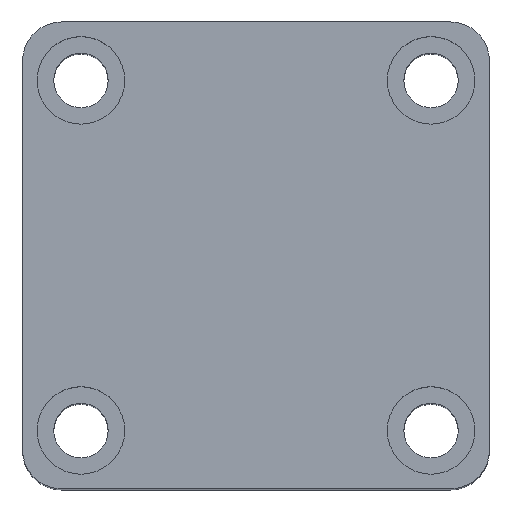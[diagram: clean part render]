
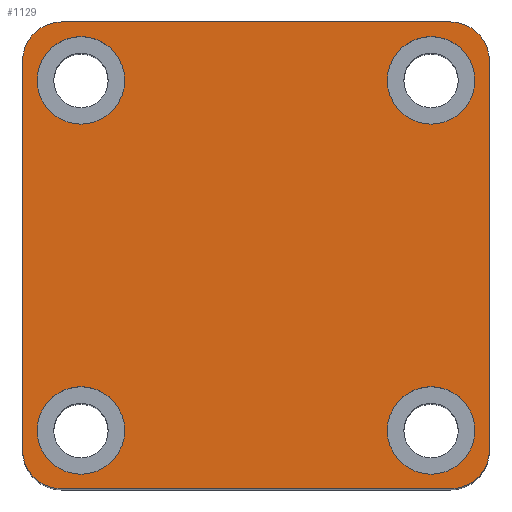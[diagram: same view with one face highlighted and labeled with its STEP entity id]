
A CAD part, top view. The second image highlights one B-rep face of the part: STEP entity #1129.
In plain terms, the highlighted planar face has unit normal (0, 0, 1).
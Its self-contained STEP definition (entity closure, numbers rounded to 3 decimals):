
#12 = CIRCLE ( 'NONE', #1632, 4.5 ) ;
#14 = CIRCLE ( 'NONE', #1633, 4. ) ;
#18 = CIRCLE ( 'NONE', #1634, 4.5 ) ;
#20 = CIRCLE ( 'NONE', #1635, 4.5 ) ;
#21 = CIRCLE ( 'NONE', #1636, 4.5 ) ;
#25 = CIRCLE ( 'NONE', #1639, 4. ) ;
#28 = CIRCLE ( 'NONE', #1642, 4. ) ;
#45 = FACE_BOUND ( 'NONE', #714, .T. ) ;
#46 = FACE_BOUND ( 'NONE', #700, .T. ) ;
#47 = FACE_OUTER_BOUND ( 'NONE', #702, .T. ) ;
#48 = FACE_BOUND ( 'NONE', #704, .T. ) ;
#49 = FACE_BOUND ( 'NONE', #705, .T. ) ;
#482 = VERTEX_POINT ( 'NONE', #1555 ) ;
#516 = ORIENTED_EDGE ( 'NONE', *, *, #1753, .F. ) ;
#518 = ORIENTED_EDGE ( 'NONE', *, *, #1719, .F. ) ;
#519 = ORIENTED_EDGE ( 'NONE', *, *, #1762, .F. ) ;
#520 = ORIENTED_EDGE ( 'NONE', *, *, #1714, .F. ) ;
#521 = ORIENTED_EDGE ( 'NONE', *, *, #1710, .F. ) ;
#523 = ORIENTED_EDGE ( 'NONE', *, *, #1761, .F. ) ;
#525 = ORIENTED_EDGE ( 'NONE', *, *, #1728, .F. ) ;
#526 = ORIENTED_EDGE ( 'NONE', *, *, #1780, .F. ) ;
#527 = ORIENTED_EDGE ( 'NONE', *, *, #1806, .T. ) ;
#528 = ORIENTED_EDGE ( 'NONE', *, *, #1722, .T. ) ;
#529 = ORIENTED_EDGE ( 'NONE', *, *, #1809, .T. ) ;
#530 = ORIENTED_EDGE ( 'NONE', *, *, #1660, .T. ) ;
#531 = ORIENTED_EDGE ( 'NONE', *, *, #1815, .T. ) ;
#532 = ORIENTED_EDGE ( 'NONE', *, *, #1602, .T. ) ;
#533 = ORIENTED_EDGE ( 'NONE', *, *, #1795, .T. ) ;
#535 = ORIENTED_EDGE ( 'NONE', *, *, #1747, .T. ) ;
#552 = VERTEX_POINT ( 'NONE', #1551 ) ;
#700 = EDGE_LOOP ( 'NONE', ( #525, #526 ) ) ;
#702 = EDGE_LOOP ( 'NONE', ( #527, #528, #529, #530, #531, #532, #533, #535 ) ) ;
#704 = EDGE_LOOP ( 'NONE', ( #521, #523 ) ) ;
#705 = EDGE_LOOP ( 'NONE', ( #516, #518 ) ) ;
#714 = EDGE_LOOP ( 'NONE', ( #519, #520 ) ) ;
#786 = VERTEX_POINT ( 'NONE', #1528 ) ;
#828 = VERTEX_POINT ( 'NONE', #1386 ) ;
#833 = VERTEX_POINT ( 'NONE', #1372 ) ;
#836 = VERTEX_POINT ( 'NONE', #1356 ) ;
#849 = VERTEX_POINT ( 'NONE', #1231 ) ;
#850 = VERTEX_POINT ( 'NONE', #1223 ) ;
#854 = VERTEX_POINT ( 'NONE', #1209 ) ;
#867 = VERTEX_POINT ( 'NONE', #1200 ) ;
#885 = VERTEX_POINT ( 'NONE', #1164 ) ;
#891 = VERTEX_POINT ( 'NONE', #1174 ) ;
#905 = VERTEX_POINT ( 'NONE', #1152 ) ;
#912 = VERTEX_POINT ( 'NONE', #1149 ) ;
#913 = VERTEX_POINT ( 'NONE', #1148 ) ;
#915 = VERTEX_POINT ( 'NONE', #1165 ) ;
#1129 = ADVANCED_FACE ( 'NONE', ( #49, #45, #48, #46, #47 ), #1280, .T. ) ;
#1139 = DIRECTION ( 'NONE',  ( 1., 0., 0. ) ) ;
#1140 = DIRECTION ( 'NONE',  ( 0., 0., 1. ) ) ;
#1142 = CARTESIAN_POINT ( 'NONE',  ( 20., 20., 70. ) ) ;
#1148 = CARTESIAN_POINT ( 'NONE',  ( 24., 20., 70. ) ) ;
#1149 = CARTESIAN_POINT ( 'NONE',  ( 13.5, -18., 70. ) ) ;
#1152 = CARTESIAN_POINT ( 'NONE',  ( -20., 24., 70. ) ) ;
#1164 = CARTESIAN_POINT ( 'NONE',  ( -24., -20., 70. ) ) ;
#1165 = CARTESIAN_POINT ( 'NONE',  ( -13.5, -18., 70. ) ) ;
#1174 = CARTESIAN_POINT ( 'NONE',  ( -24., 20., 70. ) ) ;
#1177 = DIRECTION ( 'NONE',  ( 1., 0., 0. ) ) ;
#1178 = DIRECTION ( 'NONE',  ( 0., 0., 1. ) ) ;
#1179 = CARTESIAN_POINT ( 'NONE',  ( 18., -18., 70. ) ) ;
#1185 = DIRECTION ( 'NONE',  ( 1., 0., 0. ) ) ;
#1187 = DIRECTION ( 'NONE',  ( 0., 0., 1. ) ) ;
#1188 = CARTESIAN_POINT ( 'NONE',  ( -20., 20., 70. ) ) ;
#1190 = DIRECTION ( 'NONE',  ( 1., 0., 0. ) ) ;
#1192 = DIRECTION ( 'NONE',  ( 0., 0., 1. ) ) ;
#1197 = CARTESIAN_POINT ( 'NONE',  ( -18., 18., 70. ) ) ;
#1200 = CARTESIAN_POINT ( 'NONE',  ( -22.5, 18., 70. ) ) ;
#1206 = DIRECTION ( 'NONE',  ( 1., 0., 0. ) ) ;
#1207 = DIRECTION ( 'NONE',  ( 0., 0., 1. ) ) ;
#1209 = CARTESIAN_POINT ( 'NONE',  ( 24., -20., 70. ) ) ;
#1210 = CARTESIAN_POINT ( 'NONE',  ( 18., 18., 70. ) ) ;
#1212 = DIRECTION ( 'NONE',  ( 1., 0., 0. ) ) ;
#1213 = DIRECTION ( 'NONE',  ( 0., 0., 1. ) ) ;
#1215 = CARTESIAN_POINT ( 'NONE',  ( -18., -18., 70. ) ) ;
#1223 = CARTESIAN_POINT ( 'NONE',  ( 13.5, 18., 70. ) ) ;
#1228 = DIRECTION ( 'NONE',  ( 1., 0., 0. ) ) ;
#1229 = DIRECTION ( 'NONE',  ( 0., 0., 1. ) ) ;
#1230 = CARTESIAN_POINT ( 'NONE',  ( -20., -20., 70. ) ) ;
#1231 = CARTESIAN_POINT ( 'NONE',  ( -22.5, -18., 70. ) ) ;
#1240 = DIRECTION ( 'NONE',  ( 1., 0., 0. ) ) ;
#1241 = DIRECTION ( 'NONE',  ( 0., 0., 1. ) ) ;
#1242 = CARTESIAN_POINT ( 'NONE',  ( 20., -20., 70. ) ) ;
#1277 = DIRECTION ( 'NONE',  ( 1., 0., 0. ) ) ;
#1280 = PLANE ( 'NONE',  #1652 ) ;
#1282 = CARTESIAN_POINT ( 'NONE',  ( 0., 0., 70. ) ) ;
#1285 = DIRECTION ( 'NONE',  ( 0., 0., 1. ) ) ;
#1356 = CARTESIAN_POINT ( 'NONE',  ( 22.5, -18., 70. ) ) ;
#1372 = CARTESIAN_POINT ( 'NONE',  ( 20., 24., 70. ) ) ;
#1386 = CARTESIAN_POINT ( 'NONE',  ( -13.5, 18., 70. ) ) ;
#1528 = CARTESIAN_POINT ( 'NONE',  ( 22.5, 18., 70. ) ) ;
#1551 = CARTESIAN_POINT ( 'NONE',  ( -20., -24., 70. ) ) ;
#1555 = CARTESIAN_POINT ( 'NONE',  ( 20., -24., 70. ) ) ;
#1602 = EDGE_CURVE ( 'NONE', #482, #854, #28, .T. ) ;
#1610 = AXIS2_PLACEMENT_3D ( 'NONE', #2423, #2419, #2422 ) ;
#1618 = AXIS2_PLACEMENT_3D ( 'NONE', #2563, #2562, #2559 ) ;
#1619 = AXIS2_PLACEMENT_3D ( 'NONE', #2571, #2577, #2570 ) ;
#1623 = AXIS2_PLACEMENT_3D ( 'NONE', #2657, #2626, #2634 ) ;
#1628 = AXIS2_PLACEMENT_3D ( 'NONE', #1142, #1140, #1139 ) ;
#1632 = AXIS2_PLACEMENT_3D ( 'NONE', #1179, #1178, #1177 ) ;
#1633 = AXIS2_PLACEMENT_3D ( 'NONE', #1188, #1187, #1185 ) ;
#1634 = AXIS2_PLACEMENT_3D ( 'NONE', #1197, #1192, #1190 ) ;
#1635 = AXIS2_PLACEMENT_3D ( 'NONE', #1210, #1207, #1206 ) ;
#1636 = AXIS2_PLACEMENT_3D ( 'NONE', #1215, #1213, #1212 ) ;
#1639 = AXIS2_PLACEMENT_3D ( 'NONE', #1230, #1229, #1228 ) ;
#1642 = AXIS2_PLACEMENT_3D ( 'NONE', #1242, #1241, #1240 ) ;
#1652 = AXIS2_PLACEMENT_3D ( 'NONE', #1282, #1285, #1277 ) ;
#1660 = EDGE_CURVE ( 'NONE', #885, #552, #25, .T. ) ;
#1710 = EDGE_CURVE ( 'NONE', #915, #849, #21, .T. ) ;
#1714 = EDGE_CURVE ( 'NONE', #850, #786, #20, .T. ) ;
#1719 = EDGE_CURVE ( 'NONE', #867, #828, #18, .T. ) ;
#1722 = EDGE_CURVE ( 'NONE', #905, #891, #14, .T. ) ;
#1728 = EDGE_CURVE ( 'NONE', #836, #912, #12, .T. ) ;
#1747 = EDGE_CURVE ( 'NONE', #913, #833, #2124, .T. ) ;
#1753 = EDGE_CURVE ( 'NONE', #828, #867, #2120, .T. ) ;
#1761 = EDGE_CURVE ( 'NONE', #849, #915, #2109, .T. ) ;
#1762 = EDGE_CURVE ( 'NONE', #786, #850, #2105, .T. ) ;
#1780 = EDGE_CURVE ( 'NONE', #912, #836, #2079, .T. ) ;
#1795 = EDGE_CURVE ( 'NONE', #854, #913, #2059, .T. ) ;
#1806 = EDGE_CURVE ( 'NONE', #833, #905, #2042, .T. ) ;
#1809 = EDGE_CURVE ( 'NONE', #891, #885, #2036, .T. ) ;
#1815 = EDGE_CURVE ( 'NONE', #552, #482, #2025, .T. ) ;
#2022 = VECTOR ( 'NONE', #2149, 1000. ) ;
#2025 = LINE ( 'NONE', #2159, #2022 ) ;
#2033 = VECTOR ( 'NONE', #2207, 1000. ) ;
#2036 = LINE ( 'NONE', #2202, #2033 ) ;
#2039 = VECTOR ( 'NONE', #2219, 1000. ) ;
#2042 = LINE ( 'NONE', #2227, #2039 ) ;
#2057 = VECTOR ( 'NONE', #2320, 1000. ) ;
#2059 = LINE ( 'NONE', #2329, #2057 ) ;
#2079 = CIRCLE ( 'NONE', #1610, 4.5 ) ;
#2105 = CIRCLE ( 'NONE', #1618, 4.5 ) ;
#2109 = CIRCLE ( 'NONE', #1619, 4.5 ) ;
#2120 = CIRCLE ( 'NONE', #1623, 4.5 ) ;
#2124 = CIRCLE ( 'NONE', #1628, 4. ) ;
#2149 = DIRECTION ( 'NONE',  ( 1., 0., 0. ) ) ;
#2159 = CARTESIAN_POINT ( 'NONE',  ( -24., -24., 70. ) ) ;
#2202 = CARTESIAN_POINT ( 'NONE',  ( -24., 24., 70. ) ) ;
#2207 = DIRECTION ( 'NONE',  ( 0., -1., 0. ) ) ;
#2219 = DIRECTION ( 'NONE',  ( -1., 0., 0. ) ) ;
#2227 = CARTESIAN_POINT ( 'NONE',  ( -24., 24., 70. ) ) ;
#2320 = DIRECTION ( 'NONE',  ( 0., 1., 0. ) ) ;
#2329 = CARTESIAN_POINT ( 'NONE',  ( 24., 24., 70. ) ) ;
#2419 = DIRECTION ( 'NONE',  ( 0., 0., 1. ) ) ;
#2422 = DIRECTION ( 'NONE',  ( 1., 0., 0. ) ) ;
#2423 = CARTESIAN_POINT ( 'NONE',  ( 18., -18., 70. ) ) ;
#2559 = DIRECTION ( 'NONE',  ( 1., 0., 0. ) ) ;
#2562 = DIRECTION ( 'NONE',  ( 0., 0., 1. ) ) ;
#2563 = CARTESIAN_POINT ( 'NONE',  ( 18., 18., 70. ) ) ;
#2570 = DIRECTION ( 'NONE',  ( 1., 0., 0. ) ) ;
#2571 = CARTESIAN_POINT ( 'NONE',  ( -18., -18., 70. ) ) ;
#2577 = DIRECTION ( 'NONE',  ( 0., 0., 1. ) ) ;
#2626 = DIRECTION ( 'NONE',  ( 0., 0., 1. ) ) ;
#2634 = DIRECTION ( 'NONE',  ( 1., 0., 0. ) ) ;
#2657 = CARTESIAN_POINT ( 'NONE',  ( -18., 18., 70. ) ) ;
